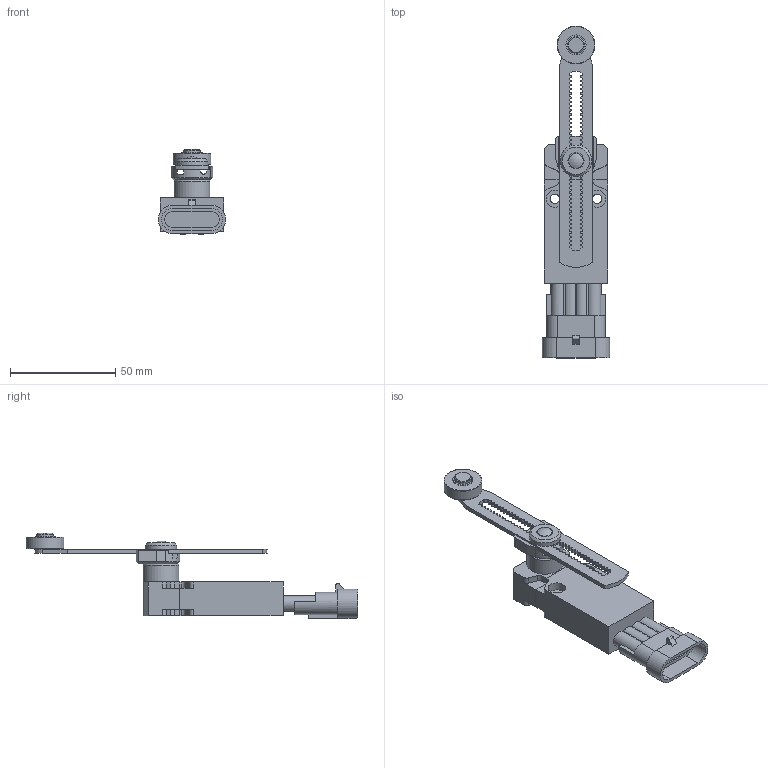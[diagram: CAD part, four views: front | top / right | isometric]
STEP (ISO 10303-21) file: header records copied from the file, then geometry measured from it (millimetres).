
FILE_DESCRIPTION(/* description */ (''),/* implementation_level */ '2;1');
FILE_NAME(/* name */ 'C:\Users\servizio.tecnico\Desktop\CADENAS\3D\EP1_STP\STP_EP1_G5100A.stp',/* time_stamp */ '2017-09-04T10:56:32+02:00',/* author */ ('servizio.tecnico'),/* organization */ (''),/* preprocessor_version */ 'ST-DEVELOPER v16.1',/* originating_system */ 'Autodesk Inventor 2016',/* authorisation */ '');
FILE_SCHEMA (('AUTOMOTIVE_DESIGN { 1 0 10303 214 3 1 1 }'));
Length unit declared in the file: millimetre
Products named in the file (3): Product; EP1G5100-A; BASE ASSI 
Assembly tree (2 placements, depth 3):
  BASE ASSI 
    EP1G5100-A
      Product
Bounding box: 32 x 157.5 x 40.6 mm (x, y, z)
Volume: 43245 mm3; surface area: 19453.4 mm2
Topology: 5 solids, 5 shells, 563 faces, 1585 edges, 1051 vertices
Faces by surface type: plane 318, cylinder 238, torus 3, cone 3, sphere 1
Full cylindrical faces by diameter (mm): 4.4 x2, 6 x2, 7 x1, 7.6 x1, 8 x1, 8.2 x4, 9.5 x2, 11 x1, 15 x1, 17 x1, 18 x1
Entity records: 18328 total; most frequent: CARTESIAN_POINT 3195, DIRECTION 3186, ORIENTED_EDGE 3120, EDGE_CURVE 1560, LINE 1068, VECTOR 1068, AXIS2_PLACEMENT_3D 1059, VERTEX_POINT 1048
